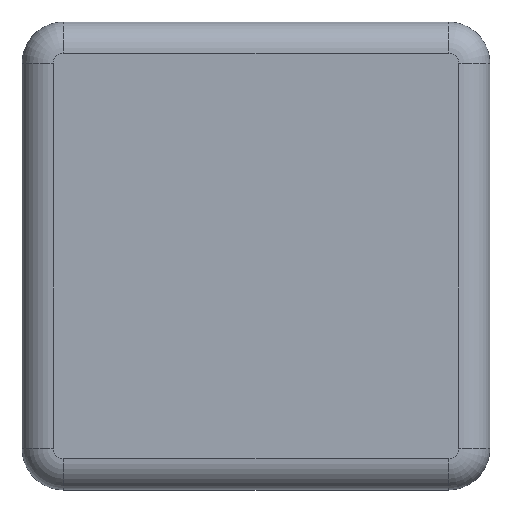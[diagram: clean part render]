
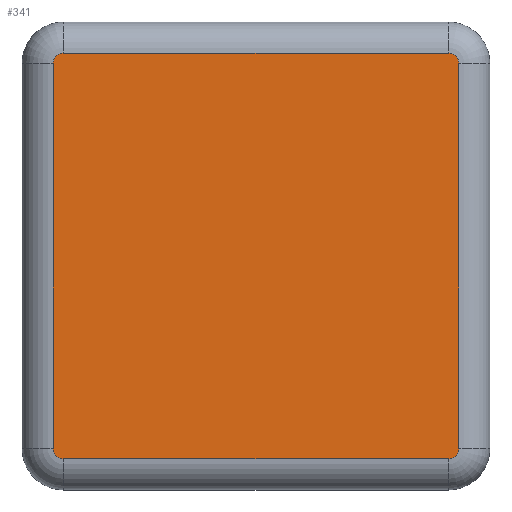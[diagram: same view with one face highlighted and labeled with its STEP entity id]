
A CAD part, top view. The second image highlights one B-rep face of the part: STEP entity #341.
In plain terms, the highlighted planar face has unit normal (0, 0, 1).
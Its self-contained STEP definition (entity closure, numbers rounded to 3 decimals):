
#115 = CARTESIAN_POINT ( 'NONE',  ( -19.5, -18.5, 0. ) ) ;
#126 = EDGE_CURVE ( 'NONE', #818, #442, #1373, .T. ) ;
#139 = AXIS2_PLACEMENT_3D ( 'NONE', #212, #1995, #1315 ) ;
#201 = DIRECTION ( 'NONE',  ( 1., 0., 0. ) ) ;
#206 = CARTESIAN_POINT ( 'NONE',  ( -19.5, -18.5, 0. ) ) ;
#212 = CARTESIAN_POINT ( 'NONE',  ( 18.5, 18.5, 0. ) ) ;
#245 = CARTESIAN_POINT ( 'NONE',  ( -18.5, -18.5, 0. ) ) ;
#267 = DIRECTION ( 'NONE',  ( 0., 0., -1. ) ) ;
#304 = DIRECTION ( 'NONE',  ( 0., -1., 0. ) ) ;
#308 = CARTESIAN_POINT ( 'NONE',  ( 18.5, -18.5, 0. ) ) ;
#341 = ADVANCED_FACE ( 'NONE', ( #971 ), #1854, .T. ) ;
#349 = ORIENTED_EDGE ( 'NONE', *, *, #439, .T. ) ;
#389 = DIRECTION ( 'NONE',  ( 0., 0., -1. ) ) ;
#432 = CARTESIAN_POINT ( 'NONE',  ( 19.5, -18.5, 0. ) ) ;
#439 = EDGE_CURVE ( 'NONE', #1907, #1098, #2073, .T. ) ;
#442 = VERTEX_POINT ( 'NONE', #1580 ) ;
#487 = CARTESIAN_POINT ( 'NONE',  ( -18.5, 19.5, 0. ) ) ;
#509 = AXIS2_PLACEMENT_3D ( 'NONE', #308, #267, #643 ) ;
#514 = EDGE_CURVE ( 'NONE', #818, #2236, #1889, .T. ) ;
#540 = CARTESIAN_POINT ( 'NONE',  ( 18.5, -19.5, 0. ) ) ;
#578 = EDGE_CURVE ( 'NONE', #1366, #1793, #877, .T. ) ;
#607 = ORIENTED_EDGE ( 'NONE', *, *, #1588, .T. ) ;
#643 = DIRECTION ( 'NONE',  ( 1., 0., 0. ) ) ;
#699 = EDGE_LOOP ( 'NONE', ( #1418, #607, #1614, #1508, #718, #1231, #1218, #349 ) ) ;
#718 = ORIENTED_EDGE ( 'NONE', *, *, #126, .F. ) ;
#727 = VECTOR ( 'NONE', #1806, 1000. ) ;
#742 = DIRECTION ( 'NONE',  ( 0., 0., -1. ) ) ;
#770 = VECTOR ( 'NONE', #304, 1000. ) ;
#809 = AXIS2_PLACEMENT_3D ( 'NONE', #1498, #389, #2186 ) ;
#818 = VERTEX_POINT ( 'NONE', #2241 ) ;
#877 = CIRCLE ( 'NONE', #139, 1. ) ;
#954 = EDGE_CURVE ( 'NONE', #1366, #442, #1600, .T. ) ;
#971 = FACE_OUTER_BOUND ( 'NONE', #699, .T. ) ;
#1024 = DIRECTION ( 'NONE',  ( -1., 0., 0. ) ) ;
#1037 = CIRCLE ( 'NONE', #509, 1. ) ;
#1098 = VERTEX_POINT ( 'NONE', #540 ) ;
#1108 = AXIS2_PLACEMENT_3D ( 'NONE', #245, #2202, #1141 ) ;
#1141 = DIRECTION ( 'NONE',  ( 1., 0., 0. ) ) ;
#1218 = ORIENTED_EDGE ( 'NONE', *, *, #1953, .F. ) ;
#1231 = ORIENTED_EDGE ( 'NONE', *, *, #514, .T. ) ;
#1308 = CARTESIAN_POINT ( 'NONE',  ( -18.5, -19.5, 0. ) ) ;
#1315 = DIRECTION ( 'NONE',  ( 1., 0., 0. ) ) ;
#1366 = VERTEX_POINT ( 'NONE', #2097 ) ;
#1373 = CIRCLE ( 'NONE', #1593, 1. ) ;
#1401 = CARTESIAN_POINT ( 'NONE',  ( 19.5, 18.5, 0. ) ) ;
#1418 = ORIENTED_EDGE ( 'NONE', *, *, #1992, .F. ) ;
#1498 = CARTESIAN_POINT ( 'NONE',  ( -18.5, -18.5, 0. ) ) ;
#1508 = ORIENTED_EDGE ( 'NONE', *, *, #954, .T. ) ;
#1580 = CARTESIAN_POINT ( 'NONE',  ( -18.5, 19.5, 0. ) ) ;
#1588 = EDGE_CURVE ( 'NONE', #2056, #1793, #1784, .T. ) ;
#1593 = AXIS2_PLACEMENT_3D ( 'NONE', #1915, #742, #201 ) ;
#1600 = LINE ( 'NONE', #487, #2006 ) ;
#1614 = ORIENTED_EDGE ( 'NONE', *, *, #578, .F. ) ;
#1752 = CIRCLE ( 'NONE', #809, 1. ) ;
#1757 = DIRECTION ( 'NONE',  ( 1., 0., 0. ) ) ;
#1784 = LINE ( 'NONE', #2281, #727 ) ;
#1793 = VERTEX_POINT ( 'NONE', #1401 ) ;
#1806 = DIRECTION ( 'NONE',  ( 0., 1., 0. ) ) ;
#1854 = PLANE ( 'NONE',  #1108 ) ;
#1889 = LINE ( 'NONE', #115, #770 ) ;
#1907 = VERTEX_POINT ( 'NONE', #1308 ) ;
#1915 = CARTESIAN_POINT ( 'NONE',  ( -18.5, 18.5, 0. ) ) ;
#1953 = EDGE_CURVE ( 'NONE', #1907, #2236, #1752, .T. ) ;
#1992 = EDGE_CURVE ( 'NONE', #2056, #1098, #1037, .T. ) ;
#1995 = DIRECTION ( 'NONE',  ( 0., 0., -1. ) ) ;
#2006 = VECTOR ( 'NONE', #1024, 1000. ) ;
#2056 = VERTEX_POINT ( 'NONE', #432 ) ;
#2064 = CARTESIAN_POINT ( 'NONE',  ( -18.5, -19.5, 0. ) ) ;
#2073 = LINE ( 'NONE', #2064, #2298 ) ;
#2097 = CARTESIAN_POINT ( 'NONE',  ( 18.5, 19.5, 0. ) ) ;
#2186 = DIRECTION ( 'NONE',  ( 1., 0., 0. ) ) ;
#2202 = DIRECTION ( 'NONE',  ( 0., 0., 1. ) ) ;
#2236 = VERTEX_POINT ( 'NONE', #206 ) ;
#2241 = CARTESIAN_POINT ( 'NONE',  ( -19.5, 18.5, 0. ) ) ;
#2281 = CARTESIAN_POINT ( 'NONE',  ( 19.5, -18.5, 0. ) ) ;
#2298 = VECTOR ( 'NONE', #1757, 1000. ) ;
